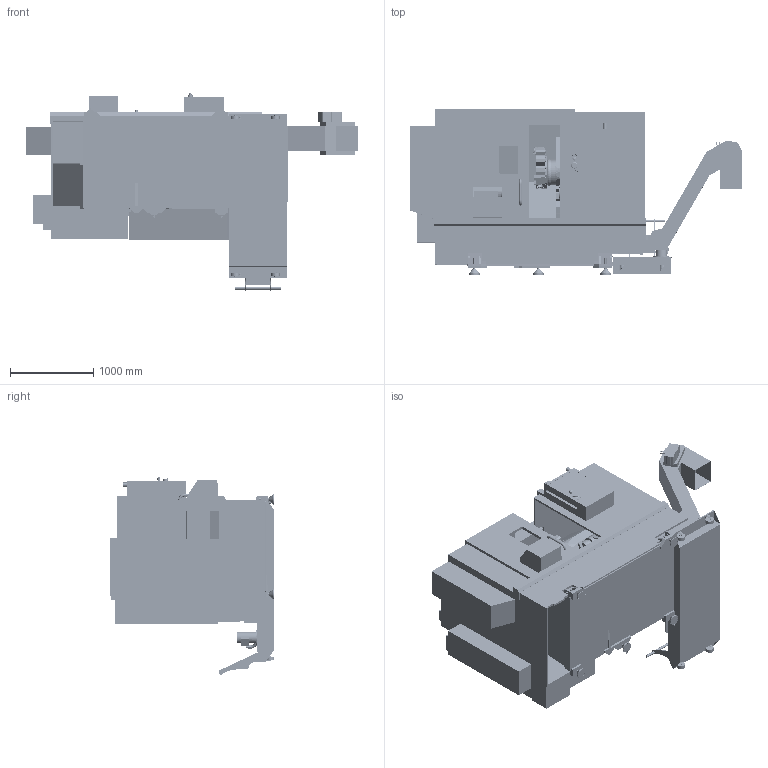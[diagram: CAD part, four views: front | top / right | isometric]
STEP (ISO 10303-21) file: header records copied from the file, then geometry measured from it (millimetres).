
FILE_DESCRIPTION (( 'STEP AP203' ), '1' );
FILE_NAME ('DS-20Y_7_2025.STEP', '2025-07-02T19:28:15', ( '' ), ( '' ), 'SwSTEP 2.0', 'SolidWorks 2023', '' );
FILE_SCHEMA (( 'CONFIG_CONTROL_DESIGN' ));
Length unit declared in the file: inch
Products named in the file (21): DS-20Y- Spindle; DS-20Y- 55 Gallon Tank; DS-20Y- Z_Y  Axis Wedge; DS-20Y- Control Panel; DS-20Y- BMT65 Turret; DS-20Y- Anchor Pattern; DS-20Y- Enclosure; DS-20Y- BMT65 METRIC; DS-20Y 6.5 Inch Chuck; DS-20Y- Base Casting; DS-20Y- Tool Setter; DS-20Y- Turret Housing; DS-20Y- 8.3 Inch Chuck; DS-20Y- Conveyor; DS-20Y- X Axis Wedge; DS-20Y_7_2025; DS-20Y- Sub Spindle; DS-20Y- Leveling Pads; DS-20Y- Auto Door; DS-20Y- Live Tooling Kit; DS-20Y- BMT65 INCH
Assembly tree (20 placements, depth 2):
  DS-20Y_7_2025
    DS-20Y- Anchor Pattern
    DS-20Y- Leveling Pads
    DS-20Y- Base Casting
    DS-20Y- Z_Y  Axis Wedge
    DS-20Y- X Axis Wedge
    DS-20Y- Turret Housing
    DS-20Y- BMT65 Turret
    DS-20Y- BMT65 INCH
    DS-20Y- BMT65 METRIC
    DS-20Y- Live Tooling Kit
    DS-20Y- Spindle
    DS-20Y- 8.3 Inch Chuck
    DS-20Y- Sub Spindle
    DS-20Y 6.5 Inch Chuck
    DS-20Y- Enclosure
    DS-20Y- Auto Door
    DS-20Y- Control Panel
    DS-20Y- Conveyor
    DS-20Y- 55 Gallon Tank
    DS-20Y- Tool Setter
Bounding box: 3995.61 x 1985.2 x 2374.26 mm (x, y, z)
Volume: 3735700762.7 mm3; surface area: 81054966.9 mm2
Topology: 60 solids, 102 shells, 10892 faces, 28796 edges, 18360 vertices
Faces by surface type: plane 6352, cylinder 2417, cone 1109, bspline 839, torus 162, sphere 13
Entity records: 400765 total; most frequent: CARTESIAN_POINT 135910, ORIENTED_EDGE 56816, DIRECTION 51021, EDGE_CURVE 28408, LINE 18423, VECTOR 18423, VERTEX_POINT 18359, AXIS2_PLACEMENT_3D 16299
